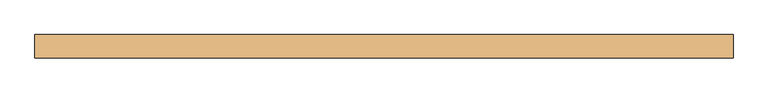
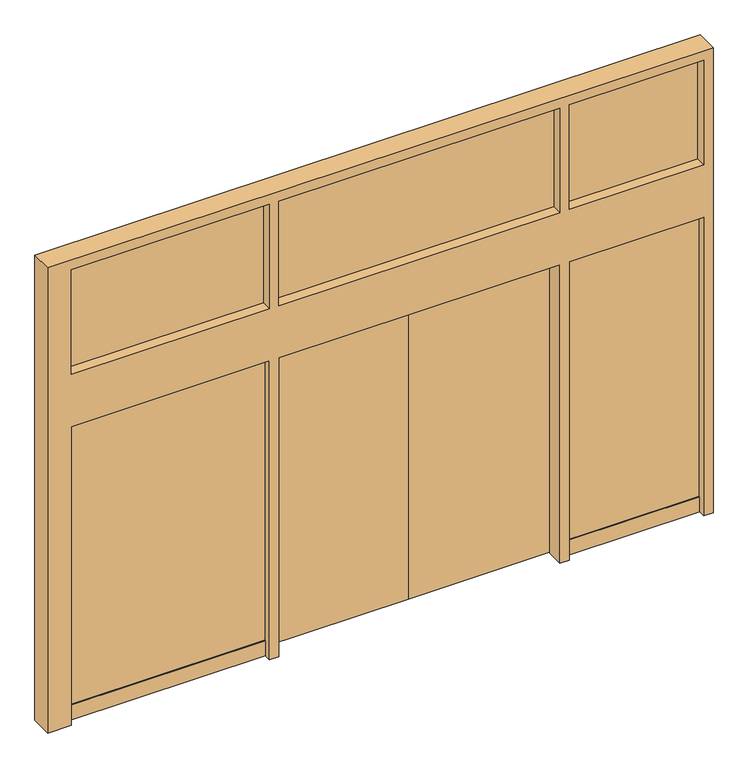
"""IFC4 building model written with IfcOpenShell, lengths in millimetres: door geometry, 営_自動ドア 両引き+ランマ1b : SSD1b 4005*3100."""

from ifc_helpers import new_model, si_unit, frame, origin, origin_with_axes, place, context, project, spatial, polyline, outline, extrude, faceted_brep, source, transform, mapped, element, save


def door_bdeb8628(model_context):
    return source(origin(), model_context, "Body", "SolidModel", [
        extrude(outline(polyline([(1800.0, -15.0), (1800.0, -35.0), (950.0, -35.0), (950.0, -15.0), (1800.0, -15.0)])), origin_with_axes(), (0.0, 0.0, 1.0), 100.0),
        extrude(outline(polyline([(-950.0, -15.0), (-950.0, -35.0), (-2205.0, -35.0), (-2205.0, -15.0), (-950.0, -15.0)])), origin_with_axes(), (0.0, 0.0, 1.0), 100.0),
        extrude(outline(polyline([(-950.0, -21.0), (-950.0, -29.0), (-2205.0, -29.0), (-2205.0, -21.0), (-950.0, -21.0)])), frame((0.0, 0.0, 100.0), z_axis=(0.0, 0.0, 1.0), x_axis=(1.0, 0.0, 0.0)), (0.0, 0.0, 1.0), 1900.0),
        extrude(outline(polyline([(890.0, -6.0), (890.0, -14.0), (-890.0, -14.0), (-890.0, -6.0), (890.0, -6.0)])), frame((0.0, 0.0, 2350.0), z_axis=(0.0, 0.0, 1.0), x_axis=(1.0, 0.0, 0.0)), (0.0, 0.0, 1.0), 700.0),
        extrude(outline(polyline([(0.0, 49.0), (0.0, 41.0), (-950.0, 41.0), (-950.0, 49.0), (0.0, 49.0)])), origin_with_axes(), (0.0, 0.0, 1.0), 2000.0),
        extrude(outline(polyline([(-950.0, -6.0), (-950.0, -14.0), (-2205.0, -14.0), (-2205.0, -6.0), (-950.0, -6.0)])), frame((0.0, 0.0, 2350.0), z_axis=(0.0, 0.0, 1.0), x_axis=(1.0, 0.0, 0.0)), (0.0, 0.0, 1.0), 700.0),
        extrude(outline(polyline([(1800.0, -6.0), (1800.0, -14.0), (950.0, -14.0), (950.0, -6.0), (1800.0, -6.0)])), frame((0.0, 0.0, 2350.0), z_axis=(0.0, 0.0, 1.0), x_axis=(1.0, 0.0, 0.0)), (0.0, 0.0, 1.0), 700.0),
        extrude(outline(polyline([(1800.0, -21.0), (1800.0, -29.0), (950.0, -29.0), (950.0, -21.0), (1800.0, -21.0)])), frame((0.0, 0.0, 100.0), z_axis=(0.0, 0.0, 1.0), x_axis=(1.0, 0.0, 0.0)), (0.0, 0.0, 1.0), 1900.0),
        extrude(outline(polyline([(950.0, 49.0), (950.0, 41.0), (0.0, 41.0), (0.0, 49.0), (950.0, 49.0)])), origin_with_axes(), (0.0, 0.0, 1.0), 2000.0),
        faceted_brep([(-2355.0, 60.0, 3115.0), (-2355.0, -80.0, 3115.0), (1860.0, -80.0, 3115.0), (1860.0, 60.0, 3115.0), (-2205.0, 60.0, 0.0), (-2205.0, -80.0, 0.0), (-2355.0, -80.0, 0.0), (-2355.0, 60.0, 0.0), (-890.0, 30.0, 0.0), (-890.0, -80.0, 0.0), (-950.0, -80.0, 0.0), (-950.0, 30.0, 0.0), (950.0, 30.0, 0.0), (950.0, -80.0, 0.0), (890.0, -80.0, 0.0), (890.0, 30.0, 0.0), (1860.0, 60.0, 0.0), (1860.0, -80.0, 0.0), (1800.0, -80.0, 0.0), (1800.0, 60.0, 0.0), (1800.0, 60.0, 2000.0), (-2205.0, 60.0, 2000.0), (-2205.0, 60.0, 2350.0), (1800.0, 60.0, 2350.0), (1800.0, 60.0, 3050.0), (-2205.0, 60.0, 3050.0), (-2205.0, -80.0, 2000.0), (-950.0, -80.0, 2000.0), (-890.0, -80.0, 2000.0), (890.0, -80.0, 2000.0), (950.0, -80.0, 2000.0), (1800.0, -80.0, 2000.0), (-2205.0, -80.0, 3050.0), (-950.0, -80.0, 3050.0), (-950.0, -80.0, 2350.0), (-2205.0, -80.0, 2350.0), (890.0, -80.0, 2350.0), (-890.0, -80.0, 2350.0), (-890.0, -80.0, 3050.0), (890.0, -80.0, 3050.0), (950.0, -80.0, 3050.0), (1800.0, -80.0, 3050.0), (1800.0, -80.0, 2350.0), (950.0, -80.0, 2350.0), (-950.0, 30.0, 2000.0), (-890.0, 30.0, 2000.0), (-890.0, 30.0, 3050.0), (-890.0, 30.0, 2350.0), (-950.0, 30.0, 2350.0), (-950.0, 30.0, 3050.0), (890.0, 30.0, 2000.0), (950.0, 30.0, 2000.0), (950.0, 30.0, 3050.0), (950.0, 30.0, 2350.0), (890.0, 30.0, 2350.0), (890.0, 30.0, 3050.0)], [[[0, 1, 2, 3]], [[4, 5, 6, 7]], [[8, 9, 10, 11]], [[12, 13, 14, 15]], [[16, 17, 18, 19]], [[0, 3, 16, 19, 20, 21, 4, 7], [22, 23, 24, 25]], [[1, 0, 7, 6]], [[2, 1, 6, 5, 26, 27, 10, 9, 28, 29, 14, 13, 30, 31, 18, 17], [32, 33, 34, 35], [36, 37, 38, 39], [40, 41, 42, 43]], [[5, 4, 21, 26]], [[22, 25, 32, 35]], [[8, 11, 44, 45]], [[46, 47, 48, 49]], [[11, 10, 27, 44]], [[49, 48, 34, 33]], [[9, 8, 45, 28]], [[47, 46, 38, 37]], [[12, 15, 50, 51]], [[52, 53, 54, 55]], [[15, 14, 29, 50]], [[55, 54, 36, 39]], [[13, 12, 51, 30]], [[53, 52, 40, 43]], [[19, 18, 31, 20]], [[24, 23, 42, 41]], [[3, 2, 17, 16]], [[23, 22, 35, 34, 48, 47, 37, 36, 54, 53, 43, 42]], [[21, 20, 31, 30, 51, 50, 29, 28, 45, 44, 27, 26]], [[25, 24, 41, 40, 52, 55, 39, 38, 46, 49, 33, 32]]]),
    ])


if __name__ == "__main__":
    model = new_model("IFC4")
    model_context = context("Model", 3, world=origin())
    ifc_project = project(units=[si_unit("LENGTHUNIT", "METRE", prefix="MILLI")], contexts=[model_context])
    site = spatial("IfcSite", under=ifc_project)
    building = spatial("IfcBuilding", under=site)
    placement = place(None, origin())
    door_shape = door_bdeb8628(model_context)
    element("IfcDoor", 1, ObjectType="営_自動ドア 両引き+ランマ1b : SSD1b 4005*3100", at=placement, inside=building, context=model_context, shape_type="MappedRepresentation", body=[
        mapped(door_shape, transform((0.0, 0.0, 0.0), x_axis=(1.0, 0.0, 0.0), y_axis=(0.0, 1.0, 0.0), z_axis=(0.0, 0.0, 1.0))),
    ])
    save(model, "model.ifc")
